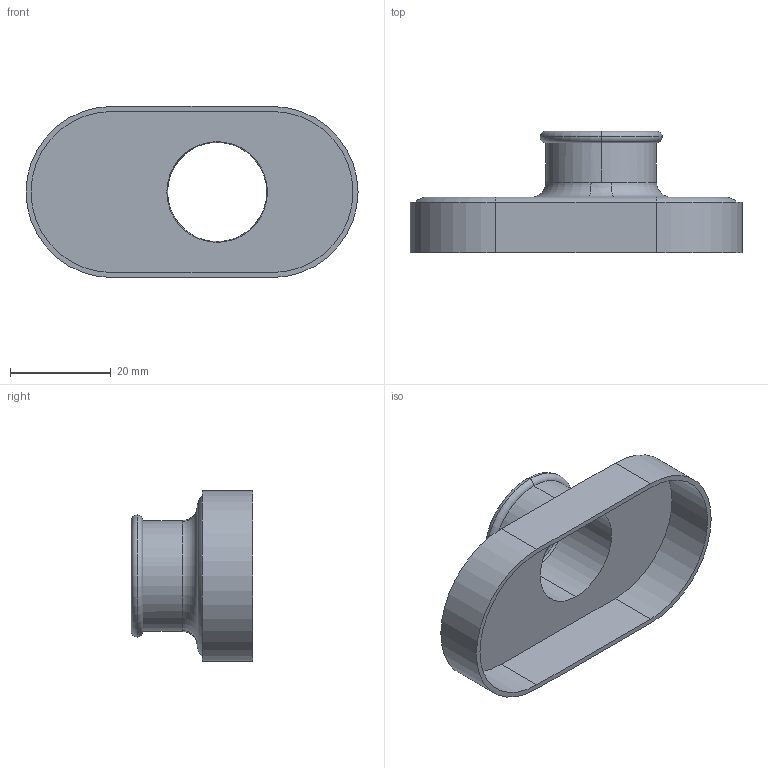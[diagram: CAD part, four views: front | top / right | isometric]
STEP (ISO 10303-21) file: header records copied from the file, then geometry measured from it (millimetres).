
FILE_DESCRIPTION(/* description */ (''),/* implementation_level */ '2;1');
FILE_NAME(/* name */ 'C:\Users\user\Documents\Inventor\Home Ventilator CPAP\BODY VALVE 1.stp',/* time_stamp */ '2020-04-03T13:39:31+02:00',/* author */ ('user'),/* organization */ (''),/* preprocessor_version */ 'ST-DEVELOPER v16.5',/* originating_system */ 'Autodesk Inventor 2017',/* authorisation */ '');
FILE_SCHEMA (('AUTOMOTIVE_DESIGN { 1 0 10303 214 3 1 1 }'));
Length unit declared in the file: millimetre
Products named in the file (1): BODY VALVE 1
Bounding box: 66 x 24.14 x 34 mm (x, y, z)
Surface area: 8559.6 mm2 (no closed solid volume)
Topology: 0 solids, 31 shells, 31 faces, 143 edges, 143 vertices
Faces by surface type: cylinder 10, torus 10, plane 9, bspline 2
Entity records: 1718 total; most frequent: CARTESIAN_POINT 458, DIRECTION 270, VERTEX_POINT 143, EDGE_CURVE 143, ORIENTED_EDGE 143, AXIS2_PLACEMENT_3D 109, CIRCLE 79, LINE 52
